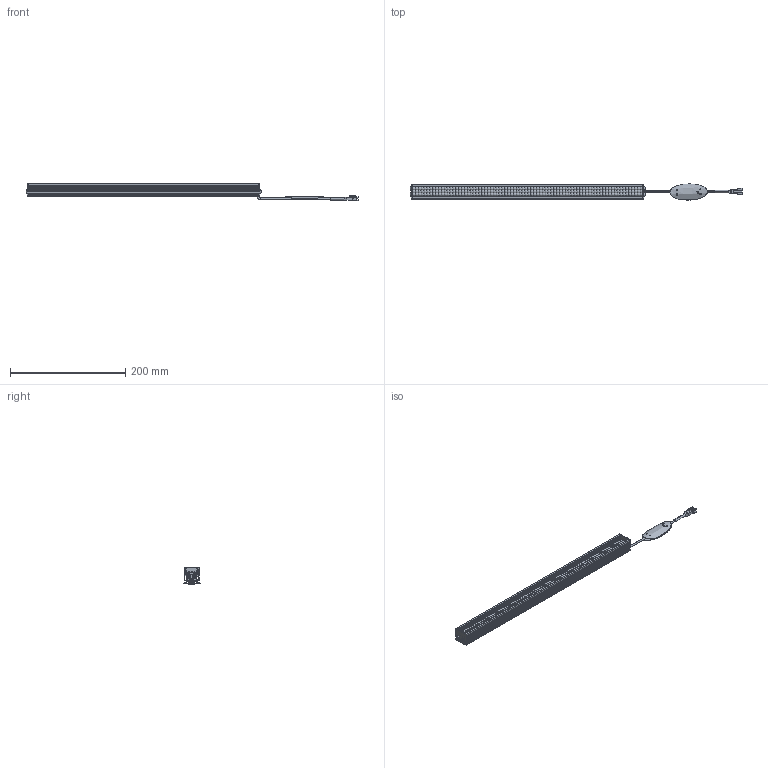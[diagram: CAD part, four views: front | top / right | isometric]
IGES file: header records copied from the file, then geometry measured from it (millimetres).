
Start section: 3D InterOp IGES (v. 2019 1.0.2), Spatial Corp. Copyright (c) 1999-2017.
Global section: file name: VBA-40015_DRAWING_3D.iges; native system: Spatial Corp.; preprocessor: 3D InterOp ACIS/IGES; author: Noname; organization: Noname; date: 20230914.100302; units: millimetre
Bounding box: 576 x 27.99 x 30.5 mm (x, y, z)
Surface area: 124358.1 mm2 (no closed solid volume)
Topology: 0 solids, 0 shells, 1583 faces, 9172 edges, 9172 vertices
Faces by surface type: extrusion 799, revolution 778, bspline 6
